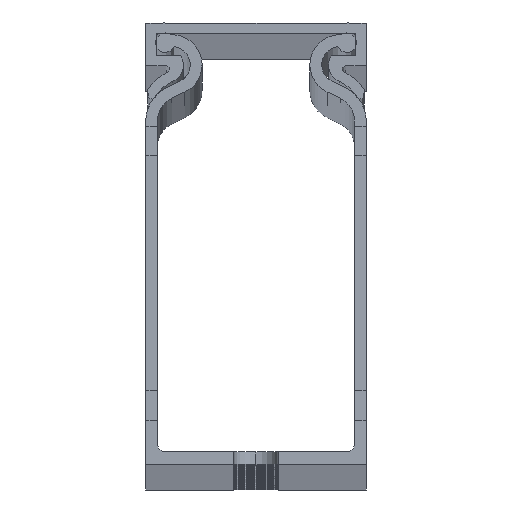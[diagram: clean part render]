
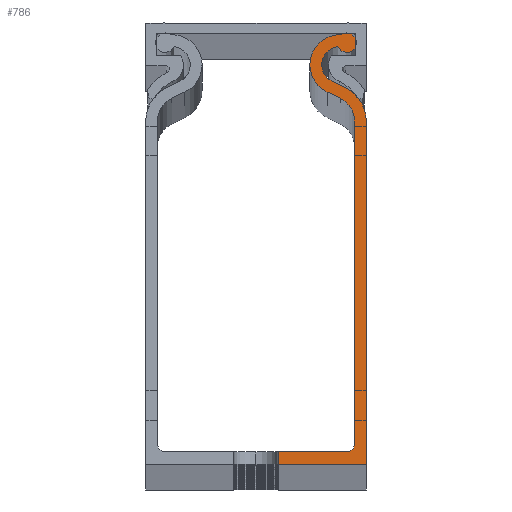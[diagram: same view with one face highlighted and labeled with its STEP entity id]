
A CAD part, top view. The second image highlights one B-rep face of the part: STEP entity #786.
In plain terms, the highlighted planar face has unit normal (0, 0, 1).
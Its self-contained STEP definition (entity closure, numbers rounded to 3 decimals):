
#33 = VECTOR ( 'NONE', #38519, 1000. ) ;
#222 = LINE ( 'NONE', #47808, #47216 ) ;
#786 = ADVANCED_FACE ( 'NONE', ( #40352 ), #49873, .F. ) ;
#1034 = DIRECTION ( 'NONE',  ( 0.902, -0.431, 0. ) ) ;
#1746 = DIRECTION ( 'NONE',  ( 1., 0., 0. ) ) ;
#2624 = LINE ( 'NONE', #40152, #42496 ) ;
#2855 = DIRECTION ( 'NONE',  ( 0., 0., -1. ) ) ;
#3395 = CARTESIAN_POINT ( 'NONE',  ( 2579.835, 1291.403, 2000. ) ) ;
#4727 = EDGE_CURVE ( 'NONE', #38063, #43237, #7507, .T. ) ;
#5283 = DIRECTION ( 'NONE',  ( 0., 0., 1. ) ) ;
#5438 = CARTESIAN_POINT ( 'NONE',  ( 2579.513, 1293.882, 2000. ) ) ;
#5526 = DIRECTION ( 'NONE',  ( 0., 0., 1. ) ) ;
#5861 = VERTEX_POINT ( 'NONE', #15821 ) ;
#5919 = EDGE_CURVE ( 'NONE', #38323, #53310, #7212, .T. ) ;
#6261 = ORIENTED_EDGE ( 'NONE', *, *, #18006, .T. ) ;
#7212 = CIRCLE ( 'NONE', #35966, 3.4 ) ;
#7507 = LINE ( 'NONE', #18304, #28139 ) ;
#8535 = VERTEX_POINT ( 'NONE', #5438 ) ;
#9490 = CARTESIAN_POINT ( 'NONE',  ( 2579.835, 1291.403, 2000. ) ) ;
#9605 = DIRECTION ( 'NONE',  ( 1., 0., 0. ) ) ;
#9873 = ORIENTED_EDGE ( 'NONE', *, *, #4727, .T. ) ;
#10484 = ORIENTED_EDGE ( 'NONE', *, *, #18506, .T. ) ;
#11052 = VERTEX_POINT ( 'NONE', #23057 ) ;
#11167 = CIRCLE ( 'NONE', #38731, 1. ) ;
#11488 = CARTESIAN_POINT ( 'NONE',  ( 2580.562, 1288.285, 2000. ) ) ;
#11660 = CARTESIAN_POINT ( 'NONE',  ( 2579.967, 1295.501, 2000. ) ) ;
#11720 = LINE ( 'NONE', #39627, #41958 ) ;
#12057 = EDGE_LOOP ( 'NONE', ( #12609, #9873, #35639, #43209, #14921, #16694, #20497, #17918, #6261, #40935, #18475, #26398, #16983, #34395, #10484 ) ) ;
#12609 = ORIENTED_EDGE ( 'NONE', *, *, #43423, .T. ) ;
#12789 = CARTESIAN_POINT ( 'NONE',  ( 2571.407, 1238.756, 2000. ) ) ;
#12993 = CARTESIAN_POINT ( 'NONE',  ( 2556.058, 1294.406, 2000. ) ) ;
#13567 = LINE ( 'NONE', #25643, #33 ) ;
#14392 = AXIS2_PLACEMENT_3D ( 'NONE', #12993, #37086, #45361 ) ;
#14921 = ORIENTED_EDGE ( 'NONE', *, *, #47642, .T. ) ;
#15240 = DIRECTION ( 'NONE',  ( 0., 0., 1. ) ) ;
#15247 = CARTESIAN_POINT ( 'NONE',  ( 2583.407, 1283.773, 2000. ) ) ;
#15821 = CARTESIAN_POINT ( 'NONE',  ( 2578.068, 1287.703, 2000. ) ) ;
#16694 = ORIENTED_EDGE ( 'NONE', *, *, #26035, .T. ) ;
#16983 = ORIENTED_EDGE ( 'NONE', *, *, #5919, .T. ) ;
#17540 = CARTESIAN_POINT ( 'NONE',  ( 2571.407, 1237.056, 2000. ) ) ;
#17685 = DIRECTION ( 'NONE',  ( 0., 0., -1. ) ) ;
#17918 = ORIENTED_EDGE ( 'NONE', *, *, #32637, .T. ) ;
#18006 = EDGE_CURVE ( 'NONE', #8535, #29116, #31817, .T. ) ;
#18304 = CARTESIAN_POINT ( 'NONE',  ( 2571.407, 1294.406, 2000. ) ) ;
#18475 = ORIENTED_EDGE ( 'NONE', *, *, #38378, .T. ) ;
#18506 = EDGE_CURVE ( 'NONE', #36344, #26660, #11167, .T. ) ;
#19417 = DIRECTION ( 'NONE',  ( 1., 0., 0. ) ) ;
#19422 = DIRECTION ( 'NONE',  ( 1., 0., 0. ) ) ;
#19644 = DIRECTION ( 'NONE',  ( -0.902, 0.431, 0. ) ) ;
#19863 = CARTESIAN_POINT ( 'NONE',  ( 2577.335, 1291.403, 2000. ) ) ;
#20497 = ORIENTED_EDGE ( 'NONE', *, *, #46384, .T. ) ;
#20844 = EDGE_CURVE ( 'NONE', #24559, #33200, #23135, .T. ) ;
#21169 = EDGE_CURVE ( 'NONE', #5861, #38323, #35301, .T. ) ;
#21243 = DIRECTION ( 'NONE',  ( 0., 0., -1. ) ) ;
#22511 = VECTOR ( 'NONE', #31806, 1000. ) ;
#23024 = DIRECTION ( 'NONE',  ( 0., 0., -1. ) ) ;
#23057 = CARTESIAN_POINT ( 'NONE',  ( 2578.758, 1289.147, 2000. ) ) ;
#23135 = LINE ( 'NONE', #15247, #22511 ) ;
#23218 = CARTESIAN_POINT ( 'NONE',  ( 2583.407, 1237.056, 2000. ) ) ;
#24559 = VERTEX_POINT ( 'NONE', #23218 ) ;
#25625 = CIRCLE ( 'NONE', #30694, 2.5 ) ;
#25643 = CARTESIAN_POINT ( 'NONE',  ( 2581.807, 1239.756, 2000. ) ) ;
#25982 = EDGE_CURVE ( 'NONE', #53310, #36344, #13567, .T. ) ;
#26035 = EDGE_CURVE ( 'NONE', #36684, #11052, #2624, .T. ) ;
#26398 = ORIENTED_EDGE ( 'NONE', *, *, #21169, .T. ) ;
#26660 = VERTEX_POINT ( 'NONE', #48002 ) ;
#27000 = DIRECTION ( 'NONE',  ( 1., 0., 0. ) ) ;
#28139 = VECTOR ( 'NONE', #38984, 1000. ) ;
#28691 = CIRCLE ( 'NONE', #31212, 5. ) ;
#29116 = VERTEX_POINT ( 'NONE', #11660 ) ;
#29157 = CARTESIAN_POINT ( 'NONE',  ( 2578.407, 1283.773, 2000. ) ) ;
#29469 = VERTEX_POINT ( 'NONE', #46896 ) ;
#29924 = CARTESIAN_POINT ( 'NONE',  ( 2578.407, 1283.773, 2000. ) ) ;
#30344 = CARTESIAN_POINT ( 'NONE',  ( 2579.873, 1286.841, 2000. ) ) ;
#30694 = AXIS2_PLACEMENT_3D ( 'NONE', #43852, #2855, #19417 ) ;
#31212 = AXIS2_PLACEMENT_3D ( 'NONE', #29924, #5283, #34372 ) ;
#31643 = VERTEX_POINT ( 'NONE', #19863 ) ;
#31806 = DIRECTION ( 'NONE',  ( 0., 1., 0. ) ) ;
#31817 = CIRCLE ( 'NONE', #51838, 1.35 ) ;
#32637 = EDGE_CURVE ( 'NONE', #31643, #8535, #25625, .T. ) ;
#33200 = VERTEX_POINT ( 'NONE', #37377 ) ;
#33628 = CARTESIAN_POINT ( 'NONE',  ( 2581.807, 1239.756, 2000. ) ) ;
#34372 = DIRECTION ( 'NONE',  ( 1., 0., 0. ) ) ;
#34395 = ORIENTED_EDGE ( 'NONE', *, *, #25982, .T. ) ;
#35230 = EDGE_CURVE ( 'NONE', #43237, #24559, #222, .T. ) ;
#35301 = LINE ( 'NONE', #30344, #36001 ) ;
#35639 = ORIENTED_EDGE ( 'NONE', *, *, #35230, .T. ) ;
#35837 = DIRECTION ( 'NONE',  ( -1., 0., 0. ) ) ;
#35966 = AXIS2_PLACEMENT_3D ( 'NONE', #29157, #21243, #41710 ) ;
#36001 = VECTOR ( 'NONE', #1034, 1000. ) ;
#36344 = VERTEX_POINT ( 'NONE', #33628 ) ;
#36684 = VERTEX_POINT ( 'NONE', #11488 ) ;
#37041 = AXIS2_PLACEMENT_3D ( 'NONE', #3395, #15240, #19422 ) ;
#37086 = DIRECTION ( 'NONE',  ( 0., 0., -1. ) ) ;
#37377 = CARTESIAN_POINT ( 'NONE',  ( 2583.407, 1283.773, 2000. ) ) ;
#38063 = VERTEX_POINT ( 'NONE', #12789 ) ;
#38078 = DIRECTION ( 'NONE',  ( 1., 0., 0. ) ) ;
#38323 = VERTEX_POINT ( 'NONE', #52690 ) ;
#38378 = EDGE_CURVE ( 'NONE', #29469, #5861, #45210, .T. ) ;
#38519 = DIRECTION ( 'NONE',  ( 0., -1., 0. ) ) ;
#38731 = AXIS2_PLACEMENT_3D ( 'NONE', #42307, #17685, #9605 ) ;
#38984 = DIRECTION ( 'NONE',  ( 0., -1., 0. ) ) ;
#39627 = CARTESIAN_POINT ( 'NONE',  ( 2556.007, 1238.756, 2000. ) ) ;
#39868 = DIRECTION ( 'NONE',  ( 1., 0., 0. ) ) ;
#40152 = CARTESIAN_POINT ( 'NONE',  ( 2578.758, 1289.147, 2000. ) ) ;
#40352 = FACE_OUTER_BOUND ( 'NONE', #12057, .T. ) ;
#40835 = AXIS2_PLACEMENT_3D ( 'NONE', #43480, #23024, #27000 ) ;
#40935 = ORIENTED_EDGE ( 'NONE', *, *, #46727, .T. ) ;
#41710 = DIRECTION ( 'NONE',  ( 1., 0., 0. ) ) ;
#41958 = VECTOR ( 'NONE', #35837, 1000. ) ;
#42307 = CARTESIAN_POINT ( 'NONE',  ( 2580.807, 1239.756, 2000. ) ) ;
#42496 = VECTOR ( 'NONE', #19644, 1000. ) ;
#42708 = CARTESIAN_POINT ( 'NONE',  ( 2581.807, 1283.757, 2000. ) ) ;
#43209 = ORIENTED_EDGE ( 'NONE', *, *, #20844, .T. ) ;
#43237 = VERTEX_POINT ( 'NONE', #17540 ) ;
#43423 = EDGE_CURVE ( 'NONE', #26660, #38063, #11720, .T. ) ;
#43426 = CARTESIAN_POINT ( 'NONE',  ( 2580.757, 1294.406, 2000. ) ) ;
#43480 = CARTESIAN_POINT ( 'NONE',  ( 2579.835, 1291.403, 2000. ) ) ;
#43852 = CARTESIAN_POINT ( 'NONE',  ( 2579.835, 1291.403, 2000. ) ) ;
#44912 = CIRCLE ( 'NONE', #40835, 2.5 ) ;
#45210 = CIRCLE ( 'NONE', #49537, 4.1 ) ;
#45361 = DIRECTION ( 'NONE',  ( -1., 0., 0. ) ) ;
#46384 = EDGE_CURVE ( 'NONE', #11052, #31643, #44912, .T. ) ;
#46727 = EDGE_CURVE ( 'NONE', #29116, #29469, #48140, .T. ) ;
#46896 = CARTESIAN_POINT ( 'NONE',  ( 2575.735, 1291.403, 2000. ) ) ;
#47216 = VECTOR ( 'NONE', #39868, 1000. ) ;
#47642 = EDGE_CURVE ( 'NONE', #33200, #36684, #28691, .T. ) ;
#47808 = CARTESIAN_POINT ( 'NONE',  ( 2583.407, 1237.056, 2000. ) ) ;
#48002 = CARTESIAN_POINT ( 'NONE',  ( 2580.807, 1238.756, 2000. ) ) ;
#48140 = CIRCLE ( 'NONE', #37041, 4.1 ) ;
#49537 = AXIS2_PLACEMENT_3D ( 'NONE', #9490, #5526, #38078 ) ;
#49873 = PLANE ( 'NONE',  #14392 ) ;
#51394 = DIRECTION ( 'NONE',  ( 0., 0., 1. ) ) ;
#51838 = AXIS2_PLACEMENT_3D ( 'NONE', #43426, #51394, #1746 ) ;
#52690 = CARTESIAN_POINT ( 'NONE',  ( 2579.873, 1286.841, 2000. ) ) ;
#53310 = VERTEX_POINT ( 'NONE', #42708 ) ;
